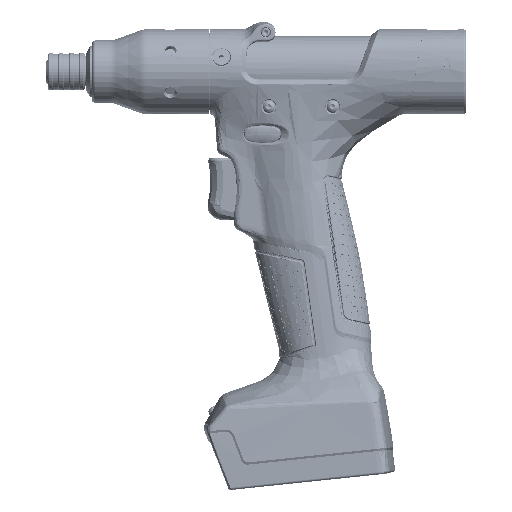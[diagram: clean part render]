
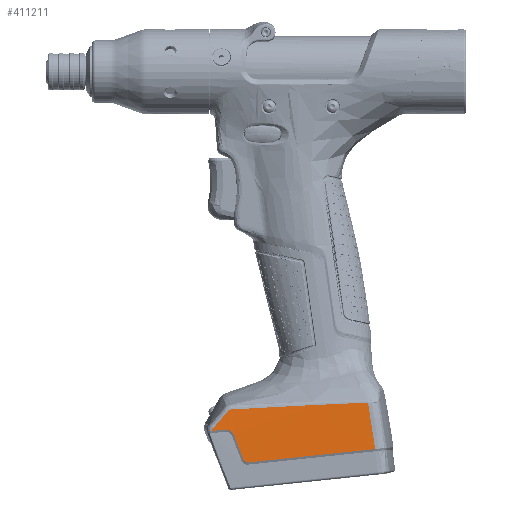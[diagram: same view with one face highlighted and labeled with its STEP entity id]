
A CAD part, top view. The second image highlights one B-rep face of the part: STEP entity #411211.
In plain terms, the highlighted cylindrical face has radius 381.25 mm (diameter 762.5 mm), a partial arc.
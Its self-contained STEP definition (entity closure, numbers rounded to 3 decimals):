
#276326=DIRECTION('',(-0.995,-0.105,
0.));
#276327=VECTOR('',#276326,58.218);
#276328=CARTESIAN_POINT('',(108.365,-171.952,
34.341));
#276329=LINE('',#276328,#276327);
#276330=CARTESIAN_POINT('',(48.391,-176.767,
34.296));
#276331=CARTESIAN_POINT('',(48.478,-176.991,
34.303));
#276332=CARTESIAN_POINT('',(48.717,-177.377,
34.316));
#276333=CARTESIAN_POINT('',(49.197,-177.781,
34.33));
#276334=CARTESIAN_POINT('',(49.774,-178.024,
34.339));
#276335=CARTESIAN_POINT('',(50.227,-178.063,
34.341));
#276336=CARTESIAN_POINT('',(50.466,-178.037,
34.341));
#276338=CARTESIAN_POINT('',(44.092,-165.597,
33.741));
#276339=CARTESIAN_POINT('',(45.618,-169.557,
34.));
#276340=CARTESIAN_POINT('',(47.119,-173.477,
34.184));
#276341=CARTESIAN_POINT('',(48.391,-176.767,
34.296));
#276343=CARTESIAN_POINT('',(39.94,-163.056,
33.543));
#276344=CARTESIAN_POINT('',(40.346,-163.013,
33.543));
#276345=CARTESIAN_POINT('',(41.216,-163.051,
33.552));
#276346=CARTESIAN_POINT('',(42.492,-163.558,
33.597));
#276347=CARTESIAN_POINT('',(43.52,-164.464,
33.665));
#276348=CARTESIAN_POINT('',(43.946,-165.219,
33.717));
#276349=CARTESIAN_POINT('',(44.092,-165.597,
33.741));
#276351=DIRECTION('',(-0.995,-0.105,
0.));
#276352=VECTOR('',#276351,5.787);
#276353=CARTESIAN_POINT('',(39.94,-163.056,
33.543));
#276354=LINE('',#276353,#276352);
#276355=CARTESIAN_POINT('',(34.539,-162.58,
33.468));
#276356=CARTESIAN_POINT('',(34.455,-162.678,
33.474));
#276357=CARTESIAN_POINT('',(34.319,-162.89,
33.489));
#276358=CARTESIAN_POINT('',(34.197,-163.246,33.513));
#276359=CARTESIAN_POINT('',(34.175,-163.517,
33.533));
#276360=CARTESIAN_POINT('',(34.185,-163.661,
33.543));
#276362=CARTESIAN_POINT('',(41.257,-154.686,
32.873));
#276363=CARTESIAN_POINT('',(40.497,-155.584,
32.948));
#276364=CARTESIAN_POINT('',(38.985,-157.366,
33.093));
#276365=CARTESIAN_POINT('',(36.745,-159.997,
33.29));
#276366=CARTESIAN_POINT('',(35.271,-161.724,
33.41));
#276367=CARTESIAN_POINT('',(34.539,-162.58,
33.468));
#276369=CARTESIAN_POINT('',(42.792,-153.907,
32.815));
#276370=CARTESIAN_POINT('',(42.639,-153.917,
32.815));
#276371=CARTESIAN_POINT('',(42.349,-153.968,
32.817));
#276372=CARTESIAN_POINT('',(41.975,-154.11,
32.826));
#276373=CARTESIAN_POINT('',(41.608,-154.332,
32.843));
#276374=CARTESIAN_POINT('',(41.369,-154.554,
32.862));
#276375=CARTESIAN_POINT('',(41.257,-154.686,
32.873));
#276377=CARTESIAN_POINT('',(79.84,-151.917,
32.989));
#276378=CARTESIAN_POINT('',(75.087,-152.143,
32.965));
#276379=CARTESIAN_POINT('',(66.004,-152.592,
32.919));
#276380=CARTESIAN_POINT('',(53.654,-153.26,
32.862));
#276381=CARTESIAN_POINT('',(46.271,-153.695,
32.83));
#276382=CARTESIAN_POINT('',(42.792,-153.907,
32.815));
#276384=CARTESIAN_POINT('',(104.309,-150.836,
33.119));
#276385=CARTESIAN_POINT('',(102.268,-150.921,
33.108));
#276386=CARTESIAN_POINT('',(98.351,-151.088,
33.087));
#276387=CARTESIAN_POINT('',(92.966,-151.321,
33.058));
#276388=CARTESIAN_POINT('',(88.072,-151.537,
33.032));
#276389=CARTESIAN_POINT('',(83.67,-151.738,
33.009));
#276390=CARTESIAN_POINT('',(81.062,-151.859,
32.996));
#276391=CARTESIAN_POINT('',(79.84,-151.917,
32.989));
#276393=CARTESIAN_POINT('',(105.142,-150.816,
33.124));
#276394=CARTESIAN_POINT('',(105.053,-150.815,
33.124));
#276395=CARTESIAN_POINT('',(104.872,-150.817,
33.122));
#276396=CARTESIAN_POINT('',(104.595,-150.824,
33.12));
#276397=CARTESIAN_POINT('',(104.405,-150.832,
33.119));
#276398=CARTESIAN_POINT('',(104.309,-150.836,
33.119));
#276400=CARTESIAN_POINT('',(108.365,-171.952,
34.341));
#276401=CARTESIAN_POINT('',(108.332,-171.697,
34.334));
#276402=CARTESIAN_POINT('',(107.414,-164.619,
34.121));
#276403=CARTESIAN_POINT('',(106.333,-157.569,
33.707));
#276404=CARTESIAN_POINT('',(105.142,-150.816,
33.124));
#301427=VERTEX_POINT('',#276362);
#301428=VERTEX_POINT('',#276367);
#301430=VERTEX_POINT('',#276369);
#301432=VERTEX_POINT('',#276377);
#301434=VERTEX_POINT('',#276384);
#301436=VERTEX_POINT('',#276393);
#301453=CARTESIAN_POINT('',(108.365,-171.952,
34.341));
#301454=CARTESIAN_POINT('',(50.466,-178.037,
34.341));
#301455=VERTEX_POINT('',#301453);
#301456=VERTEX_POINT('',#301454);
#301457=VERTEX_POINT('',#276330);
#301458=VERTEX_POINT('',#276338);
#301459=VERTEX_POINT('',#276343);
#303561=CARTESIAN_POINT('',(34.185,-163.661,
33.543));
#303562=VERTEX_POINT('',#303561);
#411182=CARTESIAN_POINT('',(118.,-182.,-346.75));
#411183=DIRECTION('',(-0.995,-0.105,0.));
#411184=DIRECTION('',(0.105,-0.995,0.));
#411185=AXIS2_PLACEMENT_3D('',#411182,#411183,#411184);
#411186=CYLINDRICAL_SURFACE('',#411185,381.25);
#411188=ORIENTED_EDGE('',*,*,#411187,.T.);
#411190=ORIENTED_EDGE('',*,*,#411189,.F.);
#411192=ORIENTED_EDGE('',*,*,#411191,.F.);
#411194=ORIENTED_EDGE('',*,*,#411193,.F.);
#411195=ORIENTED_EDGE('',*,*,#411171,.T.);
#411196=ORIENTED_EDGE('',*,*,#411161,.F.);
#411198=ORIENTED_EDGE('',*,*,#411197,.F.);
#411200=ORIENTED_EDGE('',*,*,#411199,.F.);
#411202=ORIENTED_EDGE('',*,*,#411201,.F.);
#411204=ORIENTED_EDGE('',*,*,#411203,.F.);
#411206=ORIENTED_EDGE('',*,*,#411205,.F.);
#411208=ORIENTED_EDGE('',*,*,#411207,.F.);
#411209=EDGE_LOOP('',(#411188,#411190,#411192,#411194,#411195,#411196,#411198,
#411200,#411202,#411204,#411206,#411208));
#411210=FACE_OUTER_BOUND('',#411209,.F.);
#411211=ADVANCED_FACE('',(#411210),#411186,.T.);
#276337=B_SPLINE_CURVE_WITH_KNOTS('',3,(#276330,#276331,#276332,#276333,#276334,
#276335,#276336),.UNSPECIFIED.,.F.,.F.,(4,1,1,1,4),(0.,0.25,0.5,0.75,
1.),.UNSPECIFIED.);
#276342=B_SPLINE_CURVE_WITH_KNOTS('',3,(#276338,#276339,#276340,#276341),
.UNSPECIFIED.,.F.,.F.,(4,4),(0.,1.),.UNSPECIFIED.);
#276350=B_SPLINE_CURVE_WITH_KNOTS('',3,(#276343,#276344,#276345,#276346,#276347,
#276348,#276349),.UNSPECIFIED.,.F.,.F.,(4,1,1,1,4),(0.,0.25,0.5,0.75,
1.),.UNSPECIFIED.);
#276361=B_SPLINE_CURVE_WITH_KNOTS('',3,(#276355,#276356,#276357,#276358,#276359,
#276360),.UNSPECIFIED.,.F.,.F.,(4,1,1,4),(0.,0.333,
0.667,1.),.UNSPECIFIED.);
#276368=B_SPLINE_CURVE_WITH_KNOTS('',3,(#276362,#276363,#276364,#276365,#276366,
#276367),.UNSPECIFIED.,.F.,.F.,(4,1,1,4),(0.,0.333,
0.667,1.),.UNSPECIFIED.);
#276376=B_SPLINE_CURVE_WITH_KNOTS('',3,(#276369,#276370,#276371,#276372,#276373,
#276374,#276375),.UNSPECIFIED.,.F.,.F.,(4,1,1,1,4),(0.,0.25,0.5,0.75,
1.),.UNSPECIFIED.);
#276383=B_SPLINE_CURVE_WITH_KNOTS('',3,(#276377,#276378,#276379,#276380,#276381,
#276382),.UNSPECIFIED.,.F.,.F.,(4,1,1,4),(0.,0.333,
0.667,1.),.UNSPECIFIED.);
#276392=B_SPLINE_CURVE_WITH_KNOTS('',3,(#276384,#276385,#276386,#276387,#276388,
#276389,#276390,#276391),.UNSPECIFIED.,.F.,.F.,(4,1,1,1,1,4),(0.,0.2,0.4,
0.6,0.8,1.),.UNSPECIFIED.);
#276399=B_SPLINE_CURVE_WITH_KNOTS('',3,(#276393,#276394,#276395,#276396,#276397,
#276398),.UNSPECIFIED.,.F.,.F.,(4,1,1,4),(0.,0.333,
0.667,1.),.UNSPECIFIED.);
#276405=B_SPLINE_CURVE_WITH_KNOTS('',3,(#276400,#276401,#276402,#276403,
#276404),.UNSPECIFIED.,.F.,.F.,(4,1,4),(0.,0.036,1.),
.UNSPECIFIED.);
#411161=EDGE_CURVE('',#301428,#303562,#276361,.T.);
#411171=EDGE_CURVE('',#301459,#303562,#276354,.T.);
#411187=EDGE_CURVE('',#301455,#301456,#276329,.T.);
#411189=EDGE_CURVE('',#301457,#301456,#276337,.T.);
#411191=EDGE_CURVE('',#301458,#301457,#276342,.T.);
#411193=EDGE_CURVE('',#301459,#301458,#276350,.T.);
#411197=EDGE_CURVE('',#301427,#301428,#276368,.T.);
#411199=EDGE_CURVE('',#301430,#301427,#276376,.T.);
#411201=EDGE_CURVE('',#301432,#301430,#276383,.T.);
#411203=EDGE_CURVE('',#301434,#301432,#276392,.T.);
#411205=EDGE_CURVE('',#301436,#301434,#276399,.T.);
#411207=EDGE_CURVE('',#301455,#301436,#276405,.T.);
